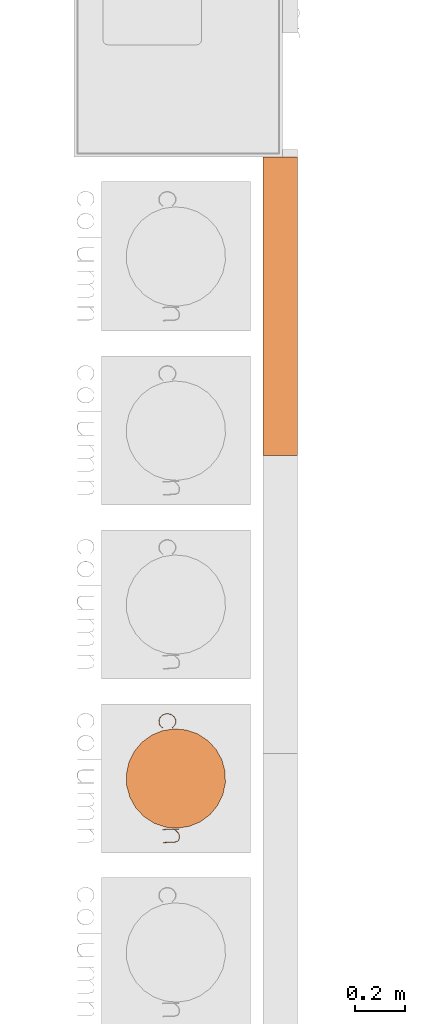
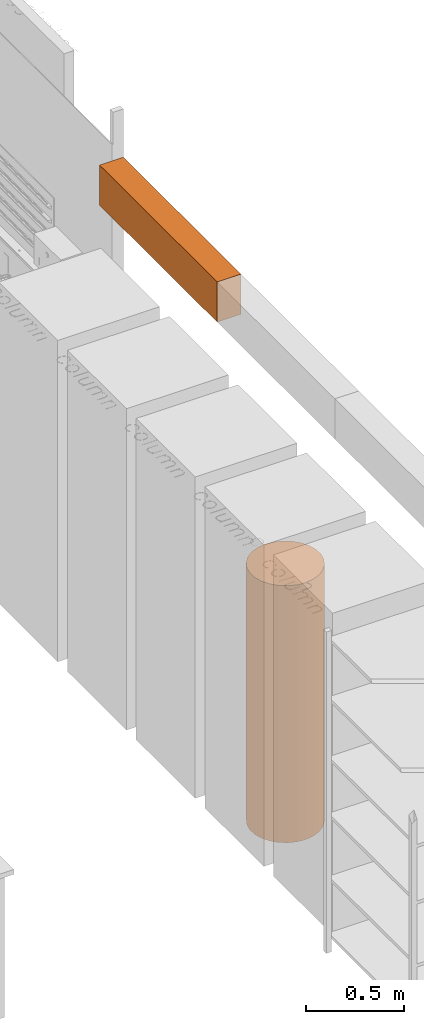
# One storey, part 9 of 43: 2 proxies.
"""IFC2X3 building model written with IfcOpenShell, lengths in metres."""

from ifc_helpers import new_model, entity, si_unit, converted_unit, derived_unit, direction, frame, frame_2d, origin, origin_2d_with_axis, place, context, subcontext, project, spatial, rectangle, extrude, face_set, surface_model, source, transform, mapped, material, material_list, type_object, type_shapes, element, save


model = new_model("IFC2X3")

# Units and contexts
model_context = context("Model", 3, precision=1e-05, world=origin(), true_north=direction((6.12303176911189e-17, 1.0)))
body_context = subcontext(model_context, "Body", "Model", "MODEL_VIEW")
ifc_project = project(units=[si_unit("LENGTHUNIT", "METRE"), si_unit("AREAUNIT", "SQUARE_METRE"), si_unit("VOLUMEUNIT", "CUBIC_METRE"), converted_unit("PLANEANGLEUNIT", "DEGREE", entity("IfcRatioMeasure", 0.0174532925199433), si_unit("PLANEANGLEUNIT", "RADIAN"), dimensions=[0, 0, 0, 0, 0, 0, 0]), si_unit("MASSUNIT", "GRAM", prefix="KILO"), derived_unit("MASSDENSITYUNIT", [(si_unit("MASSUNIT", "GRAM", prefix="KILO"), 1), (si_unit("LENGTHUNIT", "METRE"), -3)]), derived_unit("MOMENTOFINERTIAUNIT", [(si_unit("LENGTHUNIT", "METRE"), 4)]), si_unit("TIMEUNIT", "SECOND"), si_unit("FREQUENCYUNIT", "HERTZ"), si_unit("THERMODYNAMICTEMPERATUREUNIT", "DEGREE_CELSIUS"), derived_unit("THERMALTRANSMITTANCEUNIT", [(si_unit("MASSUNIT", "GRAM", prefix="KILO"), 1), (si_unit("THERMODYNAMICTEMPERATUREUNIT", "KELVIN"), -1), (si_unit("TIMEUNIT", "SECOND"), -3)]), derived_unit("VOLUMETRICFLOWRATEUNIT", [(si_unit("LENGTHUNIT", "METRE"), 3), (si_unit("TIMEUNIT", "SECOND"), -1)]), si_unit("ELECTRICCURRENTUNIT", "AMPERE"), si_unit("ELECTRICVOLTAGEUNIT", "VOLT"), si_unit("POWERUNIT", "WATT"), si_unit("FORCEUNIT", "NEWTON", prefix="KILO"), si_unit("ILLUMINANCEUNIT", "LUX"), si_unit("LUMINOUSFLUXUNIT", "LUMEN"), si_unit("LUMINOUSINTENSITYUNIT", "CANDELA"), derived_unit("USERDEFINED", [(si_unit("MASSUNIT", "GRAM", prefix="KILO"), -1), (si_unit("LENGTHUNIT", "METRE"), -2), (si_unit("TIMEUNIT", "SECOND"), 3), (si_unit("LUMINOUSFLUXUNIT", "LUMEN"), 1)]), derived_unit("LINEARVELOCITYUNIT", [(si_unit("LENGTHUNIT", "METRE"), 1), (si_unit("TIMEUNIT", "SECOND"), -1)]), si_unit("PRESSUREUNIT", "PASCAL"), derived_unit("USERDEFINED", [(si_unit("LENGTHUNIT", "METRE"), -2), (si_unit("MASSUNIT", "GRAM", prefix="KILO"), 1), (si_unit("TIMEUNIT", "SECOND"), -2)]), derived_unit("LINEARFORCEUNIT", [(si_unit("MASSUNIT", "GRAM", prefix="KILO"), 1), (si_unit("LENGTHUNIT", "METRE"), 1), (si_unit("TIMEUNIT", "SECOND"), -2), (si_unit("LENGTHUNIT", "METRE"), -1)]), derived_unit("PLANARFORCEUNIT", [(si_unit("MASSUNIT", "GRAM", prefix="KILO"), 1), (si_unit("LENGTHUNIT", "METRE"), 1), (si_unit("TIMEUNIT", "SECOND"), -2), (si_unit("LENGTHUNIT", "METRE"), -2)])], contexts=[model_context])

# Site, building, storey
site_placement = place(None, origin())
site = spatial("IfcSite", under=ifc_project, at=site_placement, Name="Default", CompositionType="ELEMENT")
building_placement = place(site_placement, origin())
building = spatial("IfcBuilding", under=site, at=building_placement, CompositionType="ELEMENT")
storey_placement = place(building_placement, frame((0.0, 0.0, 3.0)))
storey = spatial("IfcBuildingStorey", under=building, at=storey_placement, Name="01 OG", CompositionType="ELEMENT", Elevation=3.0)

# Proxies
ifc_material_1 = material(Name="dh_EZ blau")
ifc_material_2 = material(Name="dh_Weiß")
ifc_material_list_1 = material_list([ifc_material_1, ifc_material_2])
ifc_material_3 = material(Name="dh_Blau")
ifc_material_list_2 = material_list([ifc_material_2, ifc_material_3, ifc_material_1])
building_element_proxy_type_1 = type_object("IfcBuildingElementProxyType", Name="dh_Einzel_ MEK:MEK 120", PredefinedType="NOTDEFINED", material=ifc_material_list_2)
shared_shape_1 = source(origin(), body_context, "Body", "SweptSolid", [
    extrude(rectangle(XDim=0.06, YDim=0.0299999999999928, at=origin_2d_with_axis()), frame((0.585000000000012, 0.33, 2.19499999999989), z_axis=(0.0, 0.0, 1.0), x_axis=(0.0, 1.0, 0.0)), (0.0, 0.0, 1.0), 0.240000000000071),
    extrude(rectangle(XDim=0.06, YDim=0.0299999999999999, at=origin_2d_with_axis()), frame((-0.584999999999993, 0.33, 2.19499999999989), z_axis=(0.0, 0.0, 1.0), x_axis=(0.0, 1.0, 0.0)), (0.0, 0.0, 1.0), 0.240000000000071),
    extrude(rectangle(XDim=0.06, YDim=1.20000000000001, at=frame_2d((0.0, -2.05391259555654e-15), x_axis=(1.0, 0.0))), frame((0.0, 0.33, 2.43499999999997), z_axis=(0.0, 0.0, 1.0), x_axis=(0.0, 1.0, 0.0)), (0.0, 0.0, 1.0), 0.00500000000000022),
    extrude(rectangle(XDim=1.20000000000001, YDim=0.14, at=frame_2d((-3.21964677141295e-15, -0.00333333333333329), x_axis=(1.0, 0.0))), frame((0.0, 0.293333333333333, 2.18999999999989)), (0.0, 0.0, 1.0), 0.00499999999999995),
    extrude(rectangle(XDim=0.08, YDim=1.20000000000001, at=frame_2d((0.0133333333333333, 2.55351295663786e-15), x_axis=(1.0, 0.0))), frame((0.0, 0.273333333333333, 2.43499999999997), z_axis=(0.0, 0.0, 1.0), x_axis=(0.0, -1.0, 0.0)), (0.0, 0.0, 1.0), 0.00499999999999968),
    extrude(rectangle(XDim=1.2, YDim=0.08, at=frame_2d((0.0, 3.46944695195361e-17), x_axis=(1.0, 0.0))), frame((0.0, 0.26, 2.195), z_axis=(0.0, 0.0, 1.0), x_axis=(-1.0, 0.0, 0.0)), (0.0, 0.0, 1.0), 0.239999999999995),
])
type_shapes(building_element_proxy_type_1, [shared_shape_1])
proxy_1_placement = place(storey_placement, frame((16.6900000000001, 14.2240000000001, 0.7), z_axis=(0.0, 0.0, 1.0), x_axis=(0.0, -1.0, 0.0)))
element("IfcBuildingElementProxy", 1, at=proxy_1_placement, inside=storey, type_object=building_element_proxy_type_1, material=ifc_material_list_1, Name="dh_Einzel_ MEK:MEK 120", ObjectType="dh_Einzel_ MEK:MEK 120", context=body_context, shape_type="MappedRepresentation", body=[
    mapped(shared_shape_1, transform((0.0, 0.0, 0.0), scale=1.0)),
])
ifc_material_4 = material(Name="dh_Stellfläche")
ifc_material_5 = material(Name="Kunststoff, undurchsichtig schwarz")
ifc_material_list_3 = material_list([ifc_material_5, ifc_material_4])
building_element_proxy_type_2 = type_object("IfcBuildingElementProxyType", Name="dh_Gerät_Stellfläche Bestand_rund:Nutzergerät", PredefinedType="NOTDEFINED", material=ifc_material_list_3)
shared_shape_2 = source(origin(), body_context, "Body", "SurfaceModel", [
    surface_model("IfcFaceBasedSurfaceModel", [(0.0590362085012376, 0.152937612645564, 1.605), (0.0573721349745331, 0.154601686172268, 1.605), (0.0480021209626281, 0.145154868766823, 1.605), (0.0389137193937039, 0.140572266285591, 1.605), (0.0251659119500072, 0.140572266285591, 1.605), (0.0160519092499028, 0.145154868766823, 1.605), (0.00675869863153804, 0.154345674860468, 1.605), (0.00217609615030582, 0.168247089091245, 1.605), (0.00217609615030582, 0.177489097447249, 1.605), (0.00675869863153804, 0.191416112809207, 1.605), (0.0160519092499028, 0.200530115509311, 1.605), (0.0251659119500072, 0.205189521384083, 1.605), (0.0389137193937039, 0.205189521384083, 1.605), (0.0480021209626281, 0.200530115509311, 1.605), (0.0573721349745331, 0.191134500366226, 1.605), (0.0590362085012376, 0.19274737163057, 1.605), (0.0493333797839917, 0.202450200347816, 1.605), (0.0394257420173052, 0.207314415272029, 1.605), (0.0246282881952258, 0.207314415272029, 1.605), (0.0146694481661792, 0.202450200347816, 1.605), (0.00491541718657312, 0.192465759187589, 1.605), (0.0, 0.17777070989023, 1.605), (0.0, 0.167914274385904, 1.605), (0.00491541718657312, 0.153219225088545, 1.605), (0.0146694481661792, 0.143285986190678, 1.605), (0.0246282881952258, 0.138498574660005, 1.605), (0.0394257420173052, 0.138498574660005, 1.605), (0.0493333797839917, 0.143285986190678, 1.605), (0.147641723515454, 0.153219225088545, 1.605), (0.152557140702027, 0.167914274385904, 1.605), (0.152557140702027, 0.17777070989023, 1.605), (0.147641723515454, 0.192465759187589, 1.605), (0.137810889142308, 0.202450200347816, 1.605), (0.127903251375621, 0.207314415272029, 1.605), (0.113105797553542, 0.207314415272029, 1.605), (0.103146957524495, 0.202450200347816, 1.605), (0.0933929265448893, 0.192465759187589, 1.605), (0.0884775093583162, 0.17777070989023, 1.605), (0.0884775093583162, 0.167914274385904, 1.605), (0.0933929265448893, 0.153219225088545, 1.605), (0.103146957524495, 0.143285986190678, 1.605), (0.113105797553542, 0.138498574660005, 1.605), (0.127903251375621, 0.138498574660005, 1.605), (0.137810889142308, 0.143285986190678, 1.605), (0.145696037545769, 0.155011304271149, 1.605), (0.136479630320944, 0.145846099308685, 1.605), (0.12739122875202, 0.141263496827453, 1.605), (0.113643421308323, 0.141263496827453, 1.605), (0.104529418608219, 0.145846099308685, 1.605), (0.0952362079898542, 0.155011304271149, 1.605), (0.0906536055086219, 0.168887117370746, 1.605), (0.0906536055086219, 0.178129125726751, 1.605), (0.0952362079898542, 0.192004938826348, 1.605), (0.104529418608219, 0.201093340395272, 1.605), (0.113643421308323, 0.205752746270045, 1.605), (0.12739122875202, 0.205752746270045, 1.605), (0.136479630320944, 0.201093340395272, 1.605), (0.145696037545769, 0.192004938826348, 1.605), (0.150355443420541, 0.178129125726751, 1.605), (0.150355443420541, 0.168887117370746, 1.605), (0.186632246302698, 0.14013704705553, 1.605), (0.188757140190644, 0.14013704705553, 1.605), (0.188757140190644, 0.240083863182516, 1.605), (0.186632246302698, 0.240083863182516, 1.605), (0.279922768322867, 0.156214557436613, 1.605), (0.279922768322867, 0.14013704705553, 1.605), (0.282124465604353, 0.14013704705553, 1.605), (0.282124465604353, 0.207314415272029, 1.605), (0.279922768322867, 0.207314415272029, 1.605), (0.279922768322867, 0.160105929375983, 1.605), (0.26604695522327, 0.146358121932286, 1.605), (0.256958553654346, 0.141775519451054, 1.605), (0.243210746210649, 0.141775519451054, 1.605), (0.234378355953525, 0.146230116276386, 1.605), (0.229718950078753, 0.159849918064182, 1.605), (0.229718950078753, 0.207314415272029, 1.605), (0.227594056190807, 0.207314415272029, 1.605), (0.227594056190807, 0.158723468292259, 1.605), (0.23245827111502, 0.143490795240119, 1.605), (0.242673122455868, 0.138498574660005, 1.605), (0.257496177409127, 0.138498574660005, 1.605), (0.267455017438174, 0.143362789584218, 1.605), (0.320986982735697, 0.14013704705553, 1.605), (0.323111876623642, 0.14013704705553, 1.605), (0.323111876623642, 0.187345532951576, 1.605), (0.337013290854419, 0.201093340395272, 1.605), (0.346152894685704, 0.205752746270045, 1.605), (0.35984949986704, 0.205752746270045, 1.605), (0.368733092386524, 0.201221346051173, 1.605), (0.373315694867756, 0.187627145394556, 1.605), (0.373315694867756, 0.14013704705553, 1.605), (0.375517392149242, 0.14013704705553, 1.605), (0.375517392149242, 0.187345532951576, 1.605), (0.389393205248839, 0.201093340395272, 1.605), (0.398481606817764, 0.205752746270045, 1.605), (0.41222941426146, 0.205752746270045, 1.605), (0.421061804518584, 0.201221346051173, 1.605), (0.425721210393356, 0.187627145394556, 1.605), (0.425721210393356, 0.14013704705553, 1.605), (0.427846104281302, 0.14013704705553, 1.605), (0.427846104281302, 0.187499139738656, 1.605), (0.422981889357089, 0.202373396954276, 1.605), (0.412767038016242, 0.207314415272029, 1.605), (0.397969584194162, 0.207314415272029, 1.605), (0.388010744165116, 0.202501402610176, 1.605), (0.37485176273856, 0.189393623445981, 1.605), (0.370601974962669, 0.202373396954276, 1.605), (0.360438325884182, 0.207314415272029, 1.605), (0.345564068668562, 0.207314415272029, 1.605), (0.335682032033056, 0.202501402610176, 1.605), (0.323111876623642, 0.189931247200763, 1.605), (0.323111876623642, 0.206392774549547, 1.605), (0.320986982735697, 0.206392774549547, 1.605), (0.465172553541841, 0.14013704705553, 1.605), (0.467297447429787, 0.14013704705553, 1.605), (0.467297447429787, 0.187345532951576, 1.605), (0.481198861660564, 0.201093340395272, 1.605), (0.490338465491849, 0.205752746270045, 1.605), (0.504035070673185, 0.205752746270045, 1.605), (0.512918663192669, 0.201221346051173, 1.605), (0.517501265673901, 0.187627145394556, 1.605), (0.517501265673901, 0.14013704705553, 1.605), (0.519702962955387, 0.14013704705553, 1.605), (0.519702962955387, 0.187499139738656, 1.605), (0.514787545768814, 0.202373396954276, 1.605), (0.504623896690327, 0.207314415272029, 1.605), (0.489749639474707, 0.207314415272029, 1.605), (0.479867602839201, 0.202501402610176, 1.605), (0.467297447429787, 0.189931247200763, 1.605), (0.467297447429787, 0.206392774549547, 1.605), (0.465172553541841, 0.206392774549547, 1.605)], [face_set([[[0, 1, 2, 3, 4, 5, 6, 7, 8, 9, 10, 11, 12, 13, 14, 15, 16, 17, 18, 19, 20, 21, 22, 23, 24, 25, 26, 27]]]), face_set([[[28, 29, 30, 31, 32, 33, 34, 35, 36, 37, 38, 39, 40, 41, 42, 43], [44, 45, 46, 47, 48, 49, 50, 51, 52, 53, 54, 55, 56, 57, 58, 59]]]), face_set([[[60, 61, 62, 63]]]), face_set([[[64, 65, 66, 67, 68, 69, 70, 71, 72, 73, 74, 75, 76, 77, 78, 79, 80, 81]]]), face_set([[[82, 83, 84, 85, 86, 87, 88, 89, 90, 91, 92, 93, 94, 95, 96, 97, 98, 99, 100, 101, 102, 103, 104, 105, 106, 107, 108, 109, 110, 111, 112]]]), face_set([[[113, 114, 115, 116, 117, 118, 119, 120, 121, 122, 123, 124, 125, 126, 127, 128, 129, 130]]])]),
    surface_model("IfcFaceBasedSurfaceModel", [(0.462616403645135, 0.200137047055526, 1.6), (0.456804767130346, 0.152273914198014, 1.6), (0.439707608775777, 0.107192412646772, 1.6), (0.412318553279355, 0.067512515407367, 1.6), (0.376229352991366, 0.035540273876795, 1.6), (0.333537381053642, 0.0131337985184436, 1.6), (0.286723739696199, 0.00159527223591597, 1.6), (0.23850906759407, 0.00159527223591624, 1.6), (0.191695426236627, 0.0131337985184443, 1.6), (0.149003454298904, 0.0355402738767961, 1.6), (0.112914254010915, 0.0675125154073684, 1.6), (0.0855251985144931, 0.107192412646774, 1.6), (0.0684280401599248, 0.152273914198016, 1.6), (0.0626164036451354, 0.200137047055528, 1.6), (0.0684280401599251, 0.248000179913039, 1.6), (0.0855251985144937, 0.293081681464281, 1.6), (0.112914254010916, 0.332761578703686, 1.6), (0.149003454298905, 0.364733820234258, 1.6), (0.191695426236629, 0.38714029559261, 1.6), (0.238509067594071, 0.398678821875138, 1.6), (0.2867237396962, 0.398678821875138, 1.6), (0.333537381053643, 0.38714029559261, 1.6), (0.376229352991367, 0.364733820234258, 1.6), (0.412318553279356, 0.332761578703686, 1.6), (0.439707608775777, 0.293081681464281, 1.6), (0.456804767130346, 0.248000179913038, 1.6), (0.462616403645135, 0.200137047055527, 0.0), (0.456804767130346, 0.152273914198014, 0.0), (0.439707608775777, 0.107192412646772, 0.0), (0.412318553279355, 0.067512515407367, 0.0), (0.376229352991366, 0.035540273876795, 0.0), (0.333537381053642, 0.0131337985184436, 0.0), (0.286723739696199, 0.00159527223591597, 0.0), (0.23850906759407, 0.00159527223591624, 0.0), (0.191695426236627, 0.0131337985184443, 0.0), (0.149003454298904, 0.0355402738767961, 0.0), (0.112914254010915, 0.0675125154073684, 0.0), (0.0855251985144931, 0.107192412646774, 0.0), (0.0684280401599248, 0.152273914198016, 0.0), (0.0626164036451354, 0.200137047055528, 0.0), (0.0684280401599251, 0.248000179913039, 0.0), (0.0855251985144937, 0.293081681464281, 0.0), (0.112914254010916, 0.332761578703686, 0.0), (0.149003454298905, 0.364733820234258, 0.0), (0.191695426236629, 0.38714029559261, 0.0), (0.238509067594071, 0.398678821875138, 0.0), (0.2867237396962, 0.398678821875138, 0.0), (0.333537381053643, 0.38714029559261, 0.0), (0.376229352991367, 0.364733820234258, 0.0), (0.412318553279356, 0.332761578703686, 0.0), (0.439707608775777, 0.293081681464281, 0.0), (0.456804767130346, 0.248000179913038, 0.0)], [face_set([[[0, 1, 2, 3, 4, 5, 6, 7, 8, 9, 10, 11, 12, 13, 14, 15, 16, 17, 18, 19, 20, 21, 22, 23, 24, 25]], [[26, 27, 28, 29, 30, 31, 32, 33, 34, 35, 36, 37, 38, 39, 40, 41, 42, 43, 44, 45, 46, 47, 48, 49, 50, 51]], [[13, 39, 38, 12]], [[12, 38, 37, 11]], [[9, 35, 34, 8]], [[10, 36, 35, 9]], [[11, 37, 36, 10]], [[8, 34, 33, 7]], [[7, 33, 32, 6]], [[6, 32, 31, 5]], [[5, 31, 30, 4]], [[2, 28, 27, 1]], [[3, 29, 28, 2]], [[4, 30, 29, 3]], [[1, 27, 26, 0]], [[25, 51, 50, 24]], [[26, 51, 25, 0]], [[22, 48, 47, 21]], [[23, 49, 48, 22]], [[24, 50, 49, 23]], [[21, 47, 46, 20]], [[20, 46, 45, 19]], [[19, 45, 44, 18]], [[18, 44, 43, 17]], [[15, 41, 40, 14]], [[16, 42, 41, 15]], [[17, 43, 42, 16]], [[14, 40, 39, 13]]])]),
])
type_shapes(building_element_proxy_type_2, [shared_shape_2])
proxy_2_placement = place(storey_placement, frame((16.3518515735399, 12.5793466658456, 0.7), z_axis=(0.0, 0.0, 1.0), x_axis=(0.0308691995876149, -0.999523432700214, 0.0)))
element("IfcBuildingElementProxy", 2, at=proxy_2_placement, inside=storey, type_object=building_element_proxy_type_2, material=ifc_material_4, Name="dh_Gerät_Stellfläche Bestand_rund:Nutzergerät", ObjectType="dh_Gerät_Stellfläche Bestand_rund:Nutzergerät", context=body_context, shape_type="MappedRepresentation", body=[
    mapped(shared_shape_2, transform((0.0, 0.0, 0.0), scale=1.0)),
])

save(model, "model.ifc")
